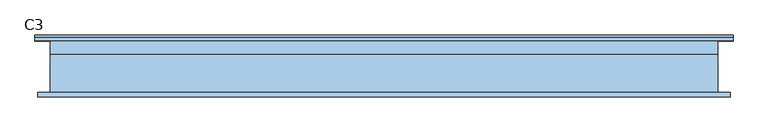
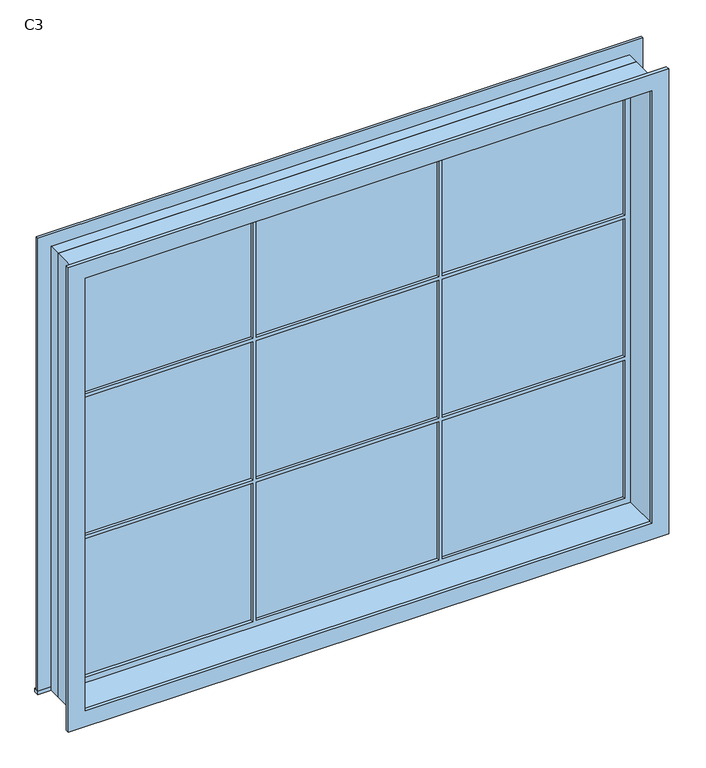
"""IFC4 building model written with IfcOpenShell, lengths in millimetres: window geometry, 单扇平开窗2 - 带贴面 : C3."""

from ifc_helpers import new_model, si_unit, frame, origin, place, context, project, spatial, polyline, outline, extrude, source, transform, mapped, element, save


def c3_245fb3e4(model_context):
    return source(origin(), model_context, "Body", "SweptSolid", [
        extrude(outline(polyline([(504.8666667, 84.125), (1476.5, 84.125), (1476.5, 71.425), (504.8666667, 71.425), (504.8666667, 84.125)])), frame((0.0, 0.0, 2558.2), z_axis=(0.0, 0.0, 1.0), x_axis=(1.0, 0.0, 0.0)), (0.0, 0.0, 1.0), 778.3),
        extrude(outline(polyline([(-485.8166667, 84.125), (485.8166667, 84.125), (485.8166667, 71.425), (-485.8166667, 71.425), (-485.8166667, 84.125)])), frame((0.0, 0.0, 2558.2), z_axis=(0.0, 0.0, 1.0), x_axis=(1.0, 0.0, 0.0)), (0.0, 0.0, 1.0), 778.3),
        extrude(outline(polyline([(-1476.5, 84.125), (-504.8666667, 84.125), (-504.8666667, 71.425), (-1476.5, 71.425), (-1476.5, 84.125)])), frame((0.0, 0.0, 2558.2), z_axis=(0.0, 0.0, 1.0), x_axis=(1.0, 0.0, 0.0)), (0.0, 0.0, 1.0), 778.3),
        extrude(outline(polyline([(-1476.5, 84.125), (-504.8666667, 84.125), (-504.8666667, 71.425), (-1476.5, 71.425), (-1476.5, 84.125)])), frame((0.0, 0.0, 1760.85), z_axis=(0.0, 0.0, 1.0), x_axis=(1.0, 0.0, 0.0)), (0.0, 0.0, 1.0), 778.3),
        extrude(outline(polyline([(-485.8166667, 84.125), (485.8166667, 84.125), (485.8166667, 71.425), (-485.8166667, 71.425), (-485.8166667, 84.125)])), frame((0.0, 0.0, 1760.85), z_axis=(0.0, 0.0, 1.0), x_axis=(1.0, 0.0, 0.0)), (0.0, 0.0, 1.0), 778.3),
        extrude(outline(polyline([(504.8666667, 84.125), (1476.5, 84.125), (1476.5, 71.425), (504.8666667, 71.425), (504.8666667, 84.125)])), frame((0.0, 0.0, 1760.85), z_axis=(0.0, 0.0, 1.0), x_axis=(1.0, 0.0, 0.0)), (0.0, 0.0, 1.0), 778.3),
        extrude(outline(polyline([(504.8666667, 84.125), (1476.5, 84.125), (1476.5, 71.425), (504.8666667, 71.425), (504.8666667, 84.125)])), frame((0.0, 0.0, 963.5), z_axis=(0.0, 0.0, 1.0), x_axis=(1.0, 0.0, 0.0)), (0.0, 0.0, 1.0), 778.3),
        extrude(outline(polyline([(-485.8166667, 84.125), (485.8166667, 84.125), (485.8166667, 71.425), (-485.8166667, 71.425), (-485.8166667, 84.125)])), frame((0.0, 0.0, 963.5), z_axis=(0.0, 0.0, 1.0), x_axis=(1.0, 0.0, 0.0)), (0.0, 0.0, 1.0), 778.3),
        extrude(outline(polyline([(-1476.5, 84.125), (-504.8666667, 84.125), (-504.8666667, 71.425), (-1476.5, 71.425), (-1476.5, 84.125)])), frame((0.0, 0.0, 963.5), z_axis=(0.0, 0.0, 1.0), x_axis=(1.0, 0.0, 0.0)), (0.0, 0.0, 1.0), 778.3),
        extrude(outline(polyline([(3380.95, -1520.95), (919.05, -1520.95), (919.05, 1520.95), (3380.95, 1520.95), (3380.95, -1520.95)]), holes=[polyline([(3336.5, -504.8666667), (2558.2, -504.8666667), (2558.2, -1476.5), (3336.5, -1476.5), (3336.5, -504.8666667)]), polyline([(2539.15, -504.8666667), (1760.85, -504.8666667), (1760.85, -1476.5), (2539.15, -1476.5), (2539.15, -504.8666667)]), polyline([(1741.8, -504.8666667), (963.5, -504.8666667), (963.5, -1476.5), (1741.8, -1476.5), (1741.8, -504.8666667)]), polyline([(3336.5, 485.8166667), (2558.2, 485.8166667), (2558.2, -485.8166667), (3336.5, -485.8166667), (3336.5, 485.8166667)]), polyline([(2539.15, 485.8166667), (1760.85, 485.8166667), (1760.85, -485.8166667), (2539.15, -485.8166667), (2539.15, 485.8166667)]), polyline([(1741.8, 485.8166667), (963.5, 485.8166667), (963.5, -485.8166667), (1741.8, -485.8166667), (1741.8, 485.8166667)]), polyline([(3336.5, 1476.5), (2558.2, 1476.5), (2558.2, 504.8666667), (3336.5, 504.8666667), (3336.5, 1476.5)]), polyline([(2539.15, 1476.5), (1760.85, 1476.5), (1760.85, 504.8666667), (2539.15, 504.8666667), (2539.15, 1476.5)]), polyline([(1741.8, 1476.5), (963.5, 1476.5), (963.5, 504.8666667), (1741.8, 504.8666667), (1741.8, 1476.5)])]), frame((0.0, 55.55, 0.0), z_axis=(0.0, 1.0, 0.0), x_axis=(0.0, 0.0, 1.0)), (0.0, 0.0, 1.0), 44.45),
        extrude(outline(polyline([(3400.0, -1540.0), (900.0, -1540.0), (900.0, 1540.0), (3400.0, 1540.0), (3400.0, -1540.0)]), holes=[polyline([(3368.25, -1508.25), (3368.25, 1508.25), (931.75, 1508.25), (931.75, -1508.25), (3368.25, -1508.25)])]), frame((0.0, -120.0, 0.0), z_axis=(0.0, 1.0, 0.0), x_axis=(0.0, 0.0, 1.0)), (0.0, 0.0, 1.0), 175.55),
        extrude(outline(polyline([(3400.0, 1540.0), (3400.0, -1540.0), (900.0, -1540.0), (900.0, 1540.0), (3400.0, 1540.0)]), holes=[polyline([(3380.95, 1520.95), (919.05, 1520.95), (919.05, -1520.95), (3380.95, -1520.95), (3380.95, 1520.95)])]), frame((0.0, 55.55, 0.0), z_axis=(0.0, 1.0, 0.0), x_axis=(0.0, 0.0, 1.0)), (0.0, 0.0, 1.0), 64.45),
        extrude(outline(polyline([(-1610.95, 147.7), (1610.95, 147.7), (1610.95, 120.0), (-1610.95, 120.0), (-1610.95, 147.7)])), frame((0.0, 0.0, 900.0), z_axis=(0.0, 0.0, 1.0), x_axis=(1.0, 0.0, 0.0)), (0.0, 0.0, 1.0), 19.05),
        extrude(outline(polyline([(3380.95, -1520.95), (3380.95, 1520.95), (919.05, 1520.95), (919.05, 1610.95), (3470.95, 1610.95), (3470.95, -1610.95), (919.05, -1610.95), (919.05, -1520.95), (3380.95, -1520.95)])), frame((0.0, 120.0, 0.0), z_axis=(0.0, 1.0, 0.0), x_axis=(0.0, 0.0, 1.0)), (0.0, 0.0, 1.0), 15.0),
        extrude(outline(polyline([(3458.25, 1598.25), (3458.25, -1598.25), (841.75, -1598.25), (841.75, 1598.25), (3458.25, 1598.25)]), holes=[polyline([(3368.25, 1508.25), (931.75, 1508.25), (931.75, -1508.25), (3368.25, -1508.25), (3368.25, 1508.25)])]), frame((0.0, -140.0, 0.0), z_axis=(0.0, 1.0, 0.0), x_axis=(0.0, 0.0, 1.0)), (0.0, 0.0, 1.0), 20.0),
    ])


if __name__ == "__main__":
    model = new_model("IFC4")
    model_context = context("Model", 3, world=origin())
    ifc_project = project(units=[si_unit("LENGTHUNIT", "METRE", prefix="MILLI")], contexts=[model_context])
    site = spatial("IfcSite", under=ifc_project)
    building = spatial("IfcBuilding", under=site)
    placement = place(None, origin())
    c3_shape = c3_245fb3e4(model_context)
    element("IfcWindow", 1, ObjectType="单扇平开窗2 - 带贴面 : C3", at=placement, inside=building, context=model_context, shape_type="MappedRepresentation", body=[
        mapped(c3_shape, transform((0.0, 0.0, 0.0), x_axis=(1.0, 0.0, 0.0), y_axis=(0.0, 1.0, 0.0), z_axis=(0.0, 0.0, 1.0))),
    ])
    save(model, "model.ifc")
